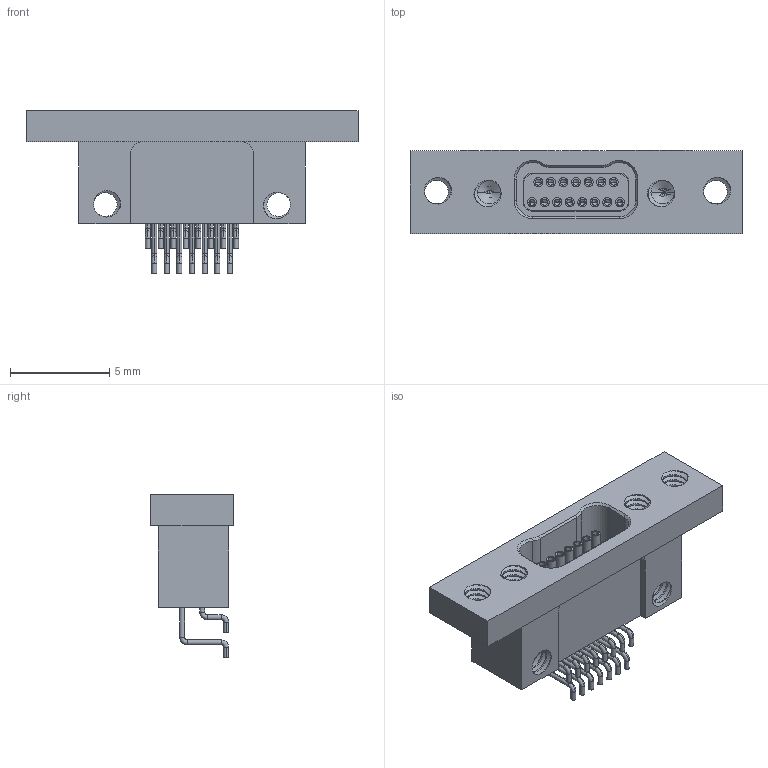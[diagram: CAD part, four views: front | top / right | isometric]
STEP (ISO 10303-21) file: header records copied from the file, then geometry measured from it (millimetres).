
FILE_DESCRIPTION (( 'STEP AP214' ), '1' );
FILE_NAME ('A29700-015 REV J.STEP', '2015-11-05T14:09:00', ( '' ), ( '' ), 'SwSTEP 2.0', 'SolidWorks 2015', '' );
FILE_SCHEMA (( 'AUTOMOTIVE_DESIGN' ));
Length unit declared in the file: inch
Products named in the file (1): A29700-015
Bounding box: 16.76 x 4.2 x 8.23 mm (x, y, z)
Volume: 205 mm3; surface area: 634.2 mm2
Topology: 1 solids, 1 shells, 620 faces, 1591 edges, 998 vertices
Faces by surface type: cylinder 264, plane 179, bspline 69, torus 60, cone 48
Entity records: 32413 total; most frequent: CARTESIAN_POINT 16978, ORIENTED_EDGE 3114, DIRECTION 2753, EDGE_CURVE 1557, AXIS2_PLACEMENT_3D 1010, VERTEX_POINT 998, VECTOR 733, LINE 733
